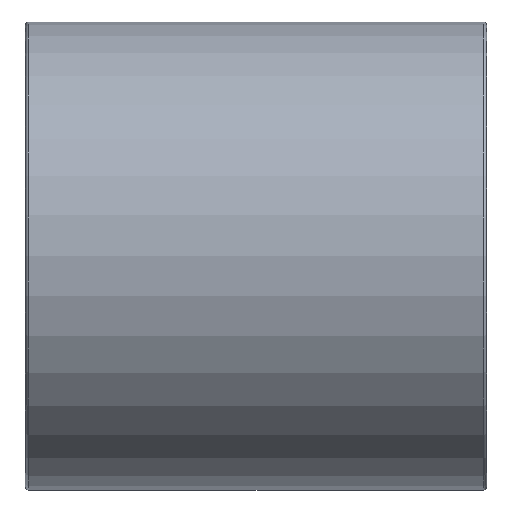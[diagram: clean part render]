
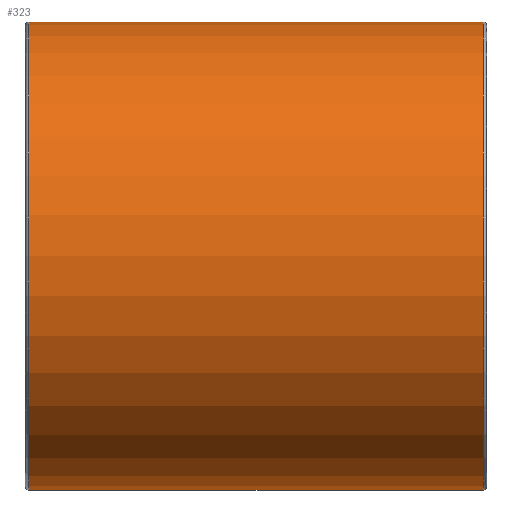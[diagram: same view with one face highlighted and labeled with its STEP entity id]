
A CAD part, top view. The second image highlights one B-rep face of the part: STEP entity #323.
In plain terms, the highlighted cylindrical face has radius 34 mm (diameter 68 mm), a partial arc.
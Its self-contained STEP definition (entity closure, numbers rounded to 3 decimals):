
#203=CARTESIAN_POINT('Vertex',(66.5,-34.,0.)) ;
#210=CARTESIAN_POINT('Vertex',(66.5,34.,0.)) ;
#230=CARTESIAN_POINT('Axis2P3D Location',(66.5,0.,0.)) ;
#251=CARTESIAN_POINT('Vertex',(0.5,34.,0.)) ;
#258=CARTESIAN_POINT('Vertex',(0.5,-34.,0.)) ;
#261=CARTESIAN_POINT('Axis2P3D Location',(0.5,0.,0.)) ;
#295=CARTESIAN_POINT('Line Origine',(33.5,34.,0.)) ;
#300=CARTESIAN_POINT('Line Origine',(33.5,-34.,0.)) ;
#312=CARTESIAN_POINT('Axis2P3D Location',(33.5,0.,0.)) ;
#231=DIRECTION('Axis2P3D Direction',(1.,-0.,0.)) ;
#262=DIRECTION('Axis2P3D Direction',(1.,-0.,0.)) ;
#296=DIRECTION('Vector Direction',(1.,0.,0.)) ;
#301=DIRECTION('Vector Direction',(1.,0.,0.)) ;
#313=DIRECTION('Axis2P3D Direction',(1.,0.,0.)) ;
#314=DIRECTION('Axis2P3D XDirection',(0.,1.,0.)) ;
#232=AXIS2_PLACEMENT_3D('Circle Axis2P3D',#230,#231,$) ;
#263=AXIS2_PLACEMENT_3D('Circle Axis2P3D',#261,#262,$) ;
#315=AXIS2_PLACEMENT_3D('Cylinder Axis2P3D',#312,#313,#314) ;
#318=ORIENTED_EDGE('',*,*,#304,.T.) ;
#319=ORIENTED_EDGE('',*,*,#234,.F.) ;
#320=ORIENTED_EDGE('',*,*,#299,.F.) ;
#321=ORIENTED_EDGE('',*,*,#265,.T.) ;
#297=VECTOR('Line Direction',#296,1.) ;
#302=VECTOR('Line Direction',#301,1.) ;
#323=ADVANCED_FACE('STM50',(#322),#316,.T.) ;
#233=CIRCLE('generated circle',#232,34.) ;
#264=CIRCLE('generated circle',#263,34.) ;
#316=CYLINDRICAL_SURFACE('generated cylinder',#315,34.) ;
#234=EDGE_CURVE('',#211,#204,#233,.T.) ;
#265=EDGE_CURVE('',#252,#259,#264,.T.) ;
#299=EDGE_CURVE('',#252,#211,#298,.T.) ;
#304=EDGE_CURVE('',#259,#204,#303,.T.) ;
#317=EDGE_LOOP('',(#318,#319,#320,#321)) ;
#322=FACE_OUTER_BOUND('',#317,.T.) ;
#298=LINE('Line',#295,#297) ;
#303=LINE('Line',#300,#302) ;
#204=VERTEX_POINT('',#203) ;
#211=VERTEX_POINT('',#210) ;
#252=VERTEX_POINT('',#251) ;
#259=VERTEX_POINT('',#258) ;
